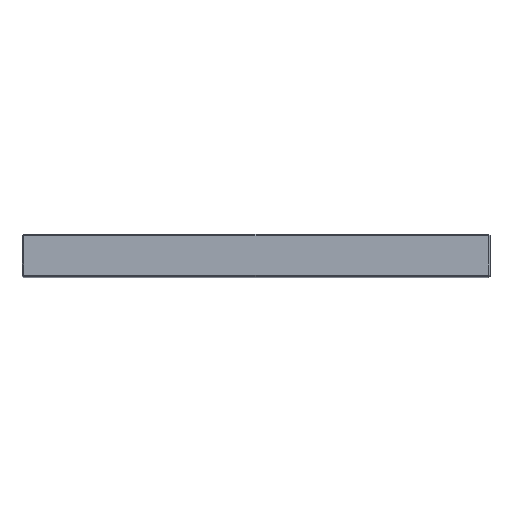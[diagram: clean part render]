
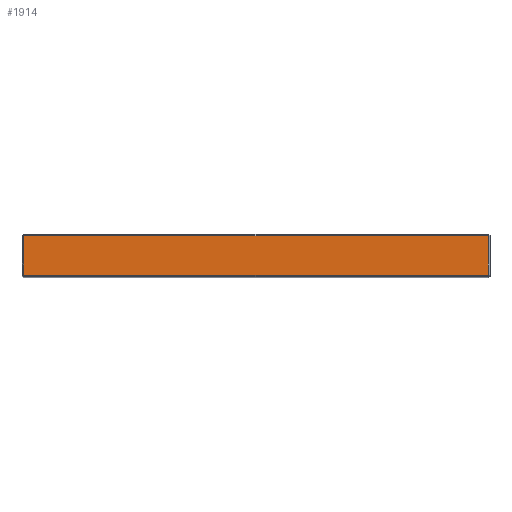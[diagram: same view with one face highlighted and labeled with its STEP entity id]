
A CAD part, top view. The second image highlights one B-rep face of the part: STEP entity #1914.
In plain terms, the highlighted planar face has unit normal (0, 0, 1).
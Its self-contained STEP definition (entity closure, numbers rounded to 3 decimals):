
#2 = VERTEX_POINT ( 'NONE', #876 ) ;
#42 = LINE ( 'NONE', #1845, #59 ) ;
#59 = VECTOR ( 'NONE', #1825, 1000. ) ;
#80 = CARTESIAN_POINT ( 'NONE',  ( -147., 26., 223. ) ) ;
#253 = VECTOR ( 'NONE', #854, 1000. ) ;
#280 = VERTEX_POINT ( 'NONE', #80 ) ;
#282 = LINE ( 'NONE', #638, #253 ) ;
#284 = EDGE_LOOP ( 'NONE', ( #1113, #1157, #1074, #1155 ) ) ;
#469 = VERTEX_POINT ( 'NONE', #526 ) ;
#479 = VERTEX_POINT ( 'NONE', #518 ) ;
#491 = DIRECTION ( 'NONE',  ( -1., 0., 0. ) ) ;
#498 = DIRECTION ( 'NONE',  ( 0., 0., -1. ) ) ;
#510 = PLANE ( 'NONE',  #930 ) ;
#518 = CARTESIAN_POINT ( 'NONE',  ( 147., 26., 223. ) ) ;
#526 = CARTESIAN_POINT ( 'NONE',  ( 147., 1., 223. ) ) ;
#551 = CARTESIAN_POINT ( 'NONE',  ( 148., 27., 223. ) ) ;
#638 = CARTESIAN_POINT ( 'NONE',  ( -147., 27., 223. ) ) ;
#747 = EDGE_CURVE ( 'NONE', #280, #2, #282, .T. ) ;
#854 = DIRECTION ( 'NONE',  ( 0., -1., 0. ) ) ;
#855 = EDGE_CURVE ( 'NONE', #469, #479, #42, .T. ) ;
#876 = CARTESIAN_POINT ( 'NONE',  ( -147., 1., 223. ) ) ;
#897 = DIRECTION ( 'NONE',  ( 1., 0., 0. ) ) ;
#899 = CARTESIAN_POINT ( 'NONE',  ( 148., 1., 223. ) ) ;
#930 = AXIS2_PLACEMENT_3D ( 'NONE', #551, #498, #491 ) ;
#945 = DIRECTION ( 'NONE',  ( -1., 0., 0. ) ) ;
#950 = CARTESIAN_POINT ( 'NONE',  ( -148., 26., 223. ) ) ;
#1074 = ORIENTED_EDGE ( 'NONE', *, *, #1886, .T. ) ;
#1113 = ORIENTED_EDGE ( 'NONE', *, *, #1879, .T. ) ;
#1155 = ORIENTED_EDGE ( 'NONE', *, *, #855, .T. ) ;
#1157 = ORIENTED_EDGE ( 'NONE', *, *, #747, .T. ) ;
#1458 = VECTOR ( 'NONE', #897, 1000. ) ;
#1489 = VECTOR ( 'NONE', #945, 1000. ) ;
#1490 = LINE ( 'NONE', #950, #1489 ) ;
#1552 = LINE ( 'NONE', #899, #1458 ) ;
#1807 = FACE_OUTER_BOUND ( 'NONE', #284, .T. ) ;
#1825 = DIRECTION ( 'NONE',  ( 0., 1., 0. ) ) ;
#1845 = CARTESIAN_POINT ( 'NONE',  ( 147., 27., 223. ) ) ;
#1879 = EDGE_CURVE ( 'NONE', #479, #280, #1490, .T. ) ;
#1886 = EDGE_CURVE ( 'NONE', #2, #469, #1552, .T. ) ;
#1914 = ADVANCED_FACE ( 'NONE', ( #1807 ), #510, .F. ) ;
